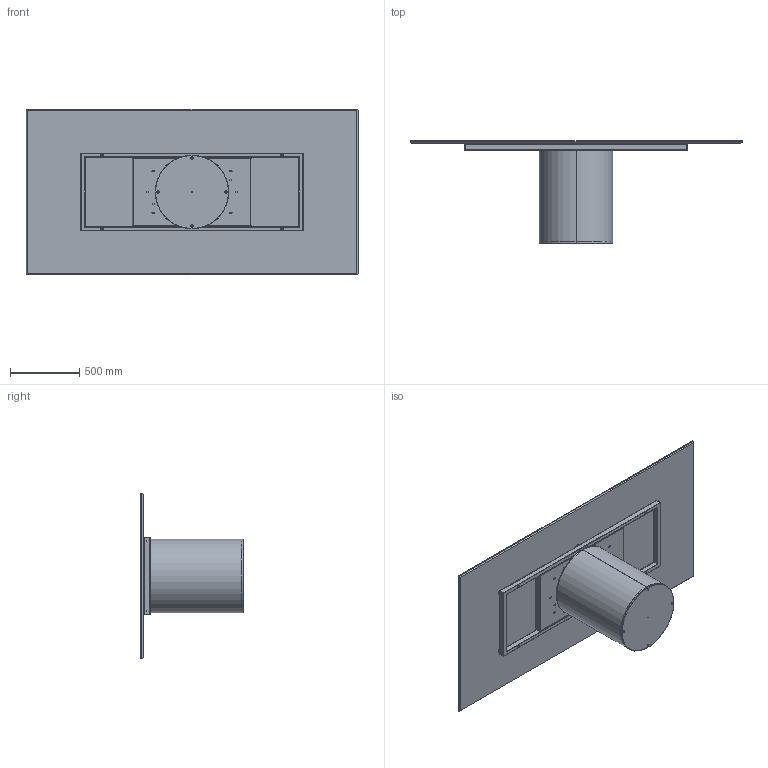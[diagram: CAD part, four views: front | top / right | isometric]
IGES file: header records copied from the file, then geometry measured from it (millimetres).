
Start section: SolidWorks IGES file using analytic representation for surfaces
Global section: file name: Y:\eforma\TECNICO\SOLIDWORKS\E-FORMA\1-TAVOLI\CILINDRO\02 parts\CI22C.IGS; native system: SolidWorks 2022; preprocessor: SolidWorks 2022; author: eforma.tech; date: 240808.092316; units: millimetre
Bounding box: 2390 x 736 x 1190 mm (x, y, z)
Volume: 53968998.5 mm3; surface area: 16569824.2 mm2
Topology: 25 solids, 25 shells, 582 faces, 1366 edges, 810 vertices
Faces by surface type: revolution 316, plane 266
